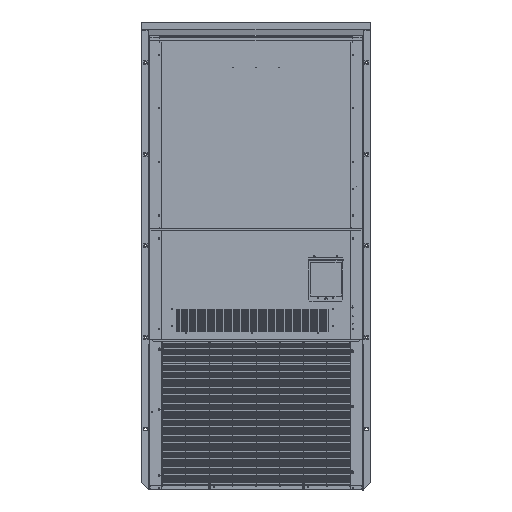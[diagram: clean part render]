
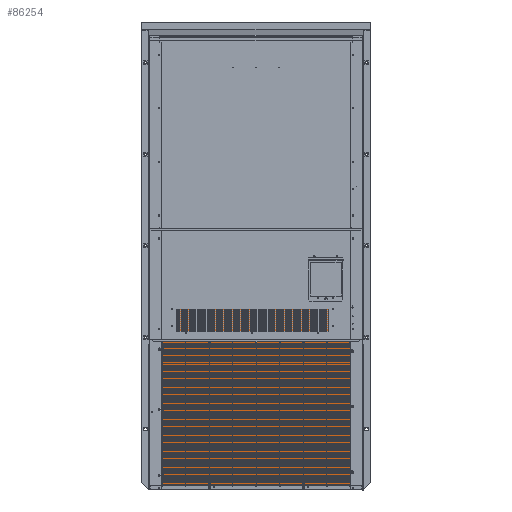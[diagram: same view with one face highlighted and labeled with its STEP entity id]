
A CAD part, top view. The second image highlights one B-rep face of the part: STEP entity #86254.
In plain terms, the highlighted planar face has unit normal (0, 0, 1).
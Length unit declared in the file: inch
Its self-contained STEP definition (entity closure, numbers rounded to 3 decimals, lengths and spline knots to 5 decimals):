
#7096 = ORIENTED_EDGE ( 'NONE', *, *, #39890, .T. ) ;
#9120 = FACE_OUTER_BOUND ( 'NONE', #87405, .T. ) ;
#12758 = DIRECTION ( 'NONE',  ( -1., 0., 0. ) ) ;
#18787 = CARTESIAN_POINT ( 'NONE',  ( 41.735, 135.3664, -0.015 ) ) ;
#39890 = EDGE_CURVE ( 'NONE', #106085, #141768, #79414, .T. ) ;
#48182 = LINE ( 'NONE', #18787, #166758 ) ;
#49099 = DIRECTION ( 'NONE',  ( 0., -1., 0. ) ) ;
#52054 = VECTOR ( 'NONE', #165119, 39.37008 ) ;
#64268 = ORIENTED_EDGE ( 'NONE', *, *, #69502, .F. ) ;
#65244 = PLANE ( 'NONE',  #164378 ) ;
#68925 = EDGE_CURVE ( 'NONE', #137833, #90630, #112259, .T. ) ;
#69502 = EDGE_CURVE ( 'NONE', #137833, #141768, #48182, .T. ) ;
#73109 = CARTESIAN_POINT ( 'NONE',  ( 41.735, 0., -0.015 ) ) ;
#79414 = LINE ( 'NONE', #109810, #52054 ) ;
#84380 = CARTESIAN_POINT ( 'NONE',  ( 0.015, 135.3664, -0.015 ) ) ;
#86254 = ADVANCED_FACE ( 'NONE', ( #9120 ), #65244, .F. ) ;
#87405 = EDGE_LOOP ( 'NONE', ( #64268, #138777, #176873, #7096 ) ) ;
#89913 = CARTESIAN_POINT ( 'NONE',  ( 41.735, 88.302, -0.015 ) ) ;
#90630 = VERTEX_POINT ( 'NONE', #144735 ) ;
#106085 = VERTEX_POINT ( 'NONE', #153500 ) ;
#109810 = CARTESIAN_POINT ( 'NONE',  ( 0.015, 0., -0.015 ) ) ;
#110445 = DIRECTION ( 'NONE',  ( -1., 0., 0. ) ) ;
#110604 = VECTOR ( 'NONE', #110445, 39.37008 ) ;
#112259 = LINE ( 'NONE', #180462, #110604 ) ;
#112922 = DIRECTION ( 'NONE',  ( 0., -1., 0. ) ) ;
#137833 = VERTEX_POINT ( 'NONE', #89913 ) ;
#138284 = VECTOR ( 'NONE', #112922, 39.37008 ) ;
#138777 = ORIENTED_EDGE ( 'NONE', *, *, #68925, .T. ) ;
#141768 = VERTEX_POINT ( 'NONE', #73109 ) ;
#144735 = CARTESIAN_POINT ( 'NONE',  ( 0.015, 88.302, -0.015 ) ) ;
#149065 = CARTESIAN_POINT ( 'NONE',  ( 0.015, 135.3664, -0.015 ) ) ;
#153500 = CARTESIAN_POINT ( 'NONE',  ( 0.015, 0., -0.015 ) ) ;
#164378 = AXIS2_PLACEMENT_3D ( 'NONE', #149065, #178519, #12758 ) ;
#165119 = DIRECTION ( 'NONE',  ( 1., 0., 0. ) ) ;
#166758 = VECTOR ( 'NONE', #49099, 39.37008 ) ;
#168238 = LINE ( 'NONE', #84380, #138284 ) ;
#172052 = EDGE_CURVE ( 'NONE', #90630, #106085, #168238, .T. ) ;
#176873 = ORIENTED_EDGE ( 'NONE', *, *, #172052, .T. ) ;
#178519 = DIRECTION ( 'NONE',  ( 0., 0., -1. ) ) ;
#180462 = CARTESIAN_POINT ( 'NONE',  ( 0.015, 88.302, -0.015 ) ) ;
